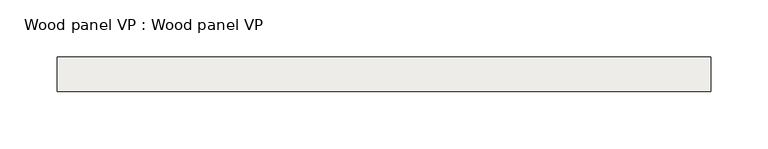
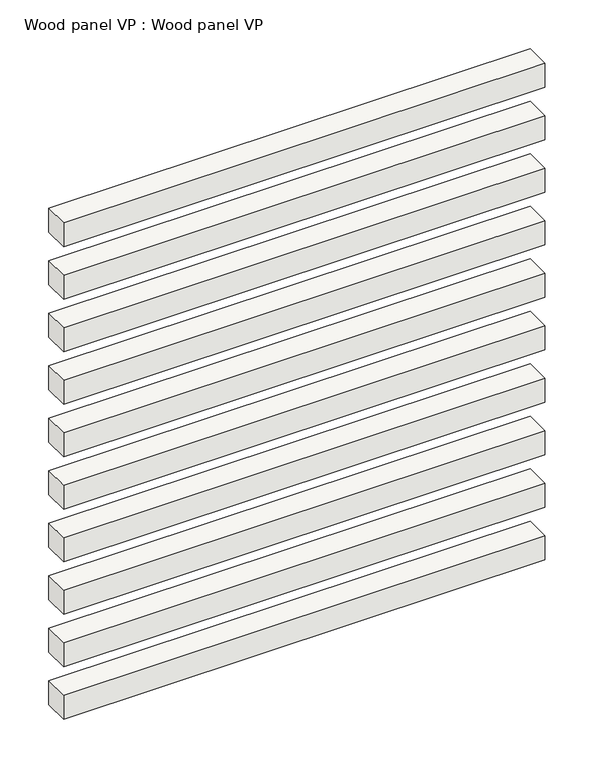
"""IFC4 building model written with IfcOpenShell, lengths in millimetres: covering geometry, Wood panel VP : Wood panel VP."""

import ifcopenshell
import ifcopenshell.guid

model = None  # the IFC model being written
_history = None  # IfcOwnerHistory: only IFC2X3 demands one
_inside = {}  # id of a spatial element -> (the spatial element, [elements in it])
_under = {}  # id of a project, library or spatial element -> (it, [spatial elements below it])
_declared = {}  # id of a project -> (the project, [libraries it declares])
_typed = {}  # id of a type object -> (the type object, [elements of that type])
_made_of = {}  # id of a material, layer set ... -> (it, [elements and type objects made of it])


def new_model(schema):
    """Start an empty IFC model of exactly this schema.

    Asked for "IFC4X3", IfcOpenShell would pick the latest addendum, in which some entities
    have other attributes; the version numbers below select the first issue.
    IFC2X3 requires an IfcOwnerHistory on every rooted entity: one is made here for all.
    """
    global model, _history
    if schema == "IFC4X3":
        model = ifcopenshell.file(schema_version=(4, 3, 0, 0))
    else:
        model = ifcopenshell.file(schema=schema)
    _inside.clear()
    _under.clear()
    _declared.clear()
    _typed.clear()
    _made_of.clear()
    _history = None
    if model.schema == "IFC2X3":
        org = make("IfcOrganization", Name="unknown")
        user = make(
            "IfcPersonAndOrganization",
            ThePerson=make("IfcPerson", FamilyName="unknown"),
            TheOrganization=org,
        )
        app = make(
            "IfcApplication",
            ApplicationDeveloper=org,
            Version="unknown",
            ApplicationFullName="unknown",
            ApplicationIdentifier="unknown",
        )
        _history = make(
            "IfcOwnerHistory",
            OwningUser=user,
            OwningApplication=app,
            ChangeAction="ADDED",
            CreationDate=0,
        )
    return model


def make(cls, **values):
    """One entity of the class cls with the attributes given. An attribute that is None is left unset."""
    return model.create_entity(
        cls, **{name: value for name, value in values.items() if value is not None}
    )


def rooted(cls, **values):
    """An entity with a GlobalId (a new one), such as an element, a storey or a relation."""
    return make(cls, GlobalId=ifcopenshell.guid.new(), OwnerHistory=_history, **values)


def si_unit(unit_type, name, prefix=None):
    """IfcSIUnit, for example si_unit("LENGTHUNIT", "METRE", prefix="MILLI")."""
    return make("IfcSIUnit", UnitType=unit_type, Prefix=prefix, Name=name)


def assignment(units):
    """IfcUnitAssignment: the units of a project."""
    return None if units is None else make("IfcUnitAssignment", Units=units)


def point(xyz):
    """IfcCartesianPoint."""
    return None if xyz is None else make("IfcCartesianPoint", Coordinates=xyz)


def direction(xyz):
    """IfcDirection."""
    return None if xyz is None else make("IfcDirection", DirectionRatios=xyz)


def frame(location, z_axis=None, x_axis=None):
    """IfcAxis2Placement3D, a coordinate frame: its origin and axes. An axis left out is left unset."""
    return make(
        "IfcAxis2Placement3D",
        Location=point(location),
        Axis=direction(z_axis),
        RefDirection=direction(x_axis),
    )


def origin():
    """The frame at (0, 0, 0) with its axes left unset."""
    return frame((0.0, 0.0, 0.0))


def origin_with_axes():
    """The frame at (0, 0, 0) with the z axis (0, 0, 1) and the x axis (1, 0, 0) written out."""
    return frame((0.0, 0.0, 0.0), z_axis=(0.0, 0.0, 1.0), x_axis=(1.0, 0.0, 0.0))


def place(relative_to, where):
    """IfcLocalPlacement: puts the frame where relative to a parent placement (None: the world)."""
    return make(
        "IfcLocalPlacement", PlacementRelTo=relative_to, RelativePlacement=where
    )


def context(
    kind, dimensions, precision=None, world=None, true_north=None, identifier=None
):
    """IfcGeometricRepresentationContext, for example the 3D "Model" context."""
    return make(
        "IfcGeometricRepresentationContext",
        ContextIdentifier=identifier,
        ContextType=kind,
        CoordinateSpaceDimension=dimensions,
        Precision=precision,
        WorldCoordinateSystem=world,
        TrueNorth=true_north,
    )


def project(units=None, contexts=None):
    """IfcProject with its units and contexts."""
    return rooted(
        "IfcProject",
        Name="project",
        RepresentationContexts=contexts,
        UnitsInContext=assignment(units),
    )


def spatial(cls, under=None, at=None, **own):
    """A site, building, storey or space (cls), placed at a placement, below another one or the project."""
    s = rooted(cls, ObjectPlacement=at, **own)
    if under is not None:
        _under.setdefault(under.id(), (under, []))[1].append(s)
    return s


def polyline(points):
    """IfcPolyline through the points."""
    return make("IfcPolyline", Points=[point(p) for p in points])


def outline(outer, holes=None, kind="AREA"):
    """IfcArbitraryClosedProfileDef: a profile drawn as a closed curve; with holes, ...WithVoids."""
    if holes is None:
        return make("IfcArbitraryClosedProfileDef", ProfileType=kind, OuterCurve=outer)
    return make(
        "IfcArbitraryProfileDefWithVoids",
        ProfileType=kind,
        OuterCurve=outer,
        InnerCurves=holes,
    )


def extrude(swept, where, along, depth):
    """IfcExtrudedAreaSolid: the profile swept, set in the frame where, extruded along a direction by depth."""
    return make(
        "IfcExtrudedAreaSolid",
        SweptArea=swept,
        Position=where,
        ExtrudedDirection=direction(along),
        Depth=depth,
    )


def shape(context_of_items, identifier, shape_type, items):
    """IfcShapeRepresentation: the items that make up one representation, for example the "Body"."""
    return make(
        "IfcShapeRepresentation",
        ContextOfItems=context_of_items,
        RepresentationIdentifier=identifier,
        RepresentationType=shape_type,
        Items=items,
    )


def source(mapping_origin, context_of_items, identifier, shape_type, items):
    """IfcRepresentationMap: a shape defined once, which mapped items show again and again."""
    return make(
        "IfcRepresentationMap",
        MappingOrigin=mapping_origin,
        MappedRepresentation=shape(context_of_items, identifier, shape_type, items),
    )


def transform(
    local_origin,
    x_axis=None,
    y_axis=None,
    z_axis=None,
    scale=None,
    scale2=None,
    scale3=None,
    uniform=True,
):
    """IfcCartesianTransformationOperator3D, or its non-uniform kind. x_axis, y_axis, z_axis: its Axis1, 2, 3."""
    if uniform:
        return make(
            "IfcCartesianTransformationOperator3D",
            Axis1=direction(x_axis),
            Axis2=direction(y_axis),
            LocalOrigin=point(local_origin),
            Scale=scale,
            Axis3=direction(z_axis),
        )
    return make(
        "IfcCartesianTransformationOperator3DnonUniform",
        Axis1=direction(x_axis),
        Axis2=direction(y_axis),
        LocalOrigin=point(local_origin),
        Scale=scale,
        Axis3=direction(z_axis),
        Scale2=scale2,
        Scale3=scale3,
    )


def mapped(mapping_source, mapping_target):
    """IfcMappedItem: shows the shape of a source again, moved by a transform."""
    return make(
        "IfcMappedItem", MappingSource=mapping_source, MappingTarget=mapping_target
    )


def made_of(thing, what):
    """Note that an element or type object is made of a material, layer set ...; save() writes the relation."""
    if what is not None:
        _made_of.setdefault(what.id(), (what, []))[1].append(thing)
    return thing


def element(
    cls,
    number,
    at=None,
    inside=None,
    cuts=None,
    type_object=None,
    material=None,
    context=None,
    identifier="Body",
    shape_type=None,
    held_by="IfcProductDefinitionShape",
    body=None,
    shapes=None,
    **own,
):
    """One element of the class cls, such as IfcWall. Its Tag is "e" and its number.

    at: its placement. inside: the storey or other place that contains it. cuts: it is an
    opening in that element (IfcRelVoidsElement). A single representation is given by context,
    identifier, shape_type and body (its items); several are given by shapes. held_by: the class
    of the entity that holds the representations. save() writes the other relations.
    """
    e = rooted(cls, Tag="e%d" % number, ObjectPlacement=at, **own)
    if body is not None:
        shapes = [shape(context, identifier, shape_type, body)]
    if shapes is not None:
        e.Representation = make(held_by, Representations=shapes)
    if inside is not None:
        _inside.setdefault(inside.id(), (inside, []))[1].append(e)
    if cuts is not None:
        rooted(
            "IfcRelVoidsElement", RelatingBuildingElement=cuts, RelatedOpeningElement=e
        )
    if type_object is not None:
        _typed.setdefault(type_object.id(), (type_object, []))[1].append(e)
    return made_of(e, material)


def aggregate(whole, parts):
    """IfcRelAggregates: a whole, such as a stair, and the parts it consists of."""
    return rooted("IfcRelAggregates", RelatingObject=whole, RelatedObjects=parts)


def save(model, path):
    """Write the relations noted so far, then the file.

    IfcRelAggregates (storeys below a building ...), IfcRelContainedInSpatialStructure (elements
    in a storey), IfcRelDefinesByType, IfcRelAssociatesMaterial and IfcRelDeclares: one each for
    every whole, place, type object, material and project.
    """
    for whole, parts in _under.values():
        aggregate(whole, parts)
    for where, things in _inside.values():
        rooted(
            "IfcRelContainedInSpatialStructure",
            RelatedElements=things,
            RelatingStructure=where,
        )
    for kind, things in _typed.values():
        rooted("IfcRelDefinesByType", RelatedObjects=things, RelatingType=kind)
    for what, things in _made_of.values():
        rooted("IfcRelAssociatesMaterial", RelatedObjects=things, RelatingMaterial=what)
    for by, libraries in _declared.values():
        rooted("IfcRelDeclares", RelatingContext=by, RelatedDefinitions=libraries)
    model.write(path)


def wood_panel_vp_wood_panel_vp_31be7e54(model_context):
    return source(origin(), model_context, "Body", "SweptSolid", [
        extrude(outline(polyline([(284.4808119, 89.5), (284.4808119, 59.5), (-284.4808119, 59.5), (-284.4808119, 89.5), (284.4808119, 89.5)])), origin_with_axes(), (0.0, 0.0, 1.0), 30.0),
        extrude(outline(polyline([(284.4808119, 89.5), (284.4808119, 59.5), (-284.4808119, 59.5), (-284.4808119, 89.5), (284.4808119, 89.5)])), frame((0.0, 0.0, 65.5555556), z_axis=(0.0, 0.0, 1.0), x_axis=(1.0, 0.0, 0.0)), (0.0, 0.0, 1.0), 30.0),
        extrude(outline(polyline([(284.4808119, 89.5), (284.4808119, 59.5), (-284.4808119, 59.5), (-284.4808119, 89.5), (284.4808119, 89.5)])), frame((0.0, 0.0, 131.1111111), z_axis=(0.0, 0.0, 1.0), x_axis=(1.0, 0.0, 0.0)), (0.0, 0.0, 1.0), 30.0),
        extrude(outline(polyline([(284.4808119, 89.5), (284.4808119, 59.5), (-284.4808119, 59.5), (-284.4808119, 89.5), (284.4808119, 89.5)])), frame((0.0, 0.0, 196.6666667), z_axis=(0.0, 0.0, 1.0), x_axis=(1.0, 0.0, 0.0)), (0.0, 0.0, 1.0), 30.0),
        extrude(outline(polyline([(284.4808119, 89.5), (284.4808119, 59.5), (-284.4808119, 59.5), (-284.4808119, 89.5), (284.4808119, 89.5)])), frame((0.0, 0.0, 262.2222222), z_axis=(0.0, 0.0, 1.0), x_axis=(1.0, 0.0, 0.0)), (0.0, 0.0, 1.0), 30.0),
        extrude(outline(polyline([(284.4808119, 89.5), (284.4808119, 59.5), (-284.4808119, 59.5), (-284.4808119, 89.5), (284.4808119, 89.5)])), frame((0.0, 0.0, 327.7777778), z_axis=(0.0, 0.0, 1.0), x_axis=(1.0, 0.0, 0.0)), (0.0, 0.0, 1.0), 30.0),
        extrude(outline(polyline([(284.4808119, 89.5), (284.4808119, 59.5), (-284.4808119, 59.5), (-284.4808119, 89.5), (284.4808119, 89.5)])), frame((0.0, 0.0, 393.3333333), z_axis=(0.0, 0.0, 1.0), x_axis=(1.0, 0.0, 0.0)), (0.0, 0.0, 1.0), 30.0),
        extrude(outline(polyline([(284.4808119, 89.5), (284.4808119, 59.5), (-284.4808119, 59.5), (-284.4808119, 89.5), (284.4808119, 89.5)])), frame((0.0, 0.0, 458.8888889), z_axis=(0.0, 0.0, 1.0), x_axis=(1.0, 0.0, 0.0)), (0.0, 0.0, 1.0), 30.0),
        extrude(outline(polyline([(284.4808119, 89.5), (284.4808119, 59.5), (-284.4808119, 59.5), (-284.4808119, 89.5), (284.4808119, 89.5)])), frame((0.0, 0.0, 524.4444444), z_axis=(0.0, 0.0, 1.0), x_axis=(1.0, 0.0, 0.0)), (0.0, 0.0, 1.0), 30.0),
        extrude(outline(polyline([(284.4808119, 89.5), (284.4808119, 59.5), (-284.4808119, 59.5), (-284.4808119, 89.5), (284.4808119, 89.5)])), frame((0.0, 0.0, 590.0), z_axis=(0.0, 0.0, 1.0), x_axis=(1.0, 0.0, 0.0)), (0.0, 0.0, 1.0), 30.0),
    ])


if __name__ == "__main__":
    model = new_model("IFC4")
    model_context = context("Model", 3, world=origin())
    ifc_project = project(units=[si_unit("LENGTHUNIT", "METRE", prefix="MILLI")], contexts=[model_context])
    site = spatial("IfcSite", under=ifc_project)
    building = spatial("IfcBuilding", under=site)
    placement = place(None, origin())
    wood_panel_vp_wood_panel_vp_shape = wood_panel_vp_wood_panel_vp_31be7e54(model_context)
    element("IfcCovering", 1, ObjectType="Wood panel VP : Wood panel VP", at=placement, inside=building, context=model_context, shape_type="MappedRepresentation", body=[
        mapped(wood_panel_vp_wood_panel_vp_shape, transform((0.0, 0.0, 0.0), x_axis=(1.0, 0.0, 0.0), y_axis=(0.0, 1.0, 0.0), z_axis=(0.0, 0.0, 1.0))),
    ])
    save(model, "model.ifc")
